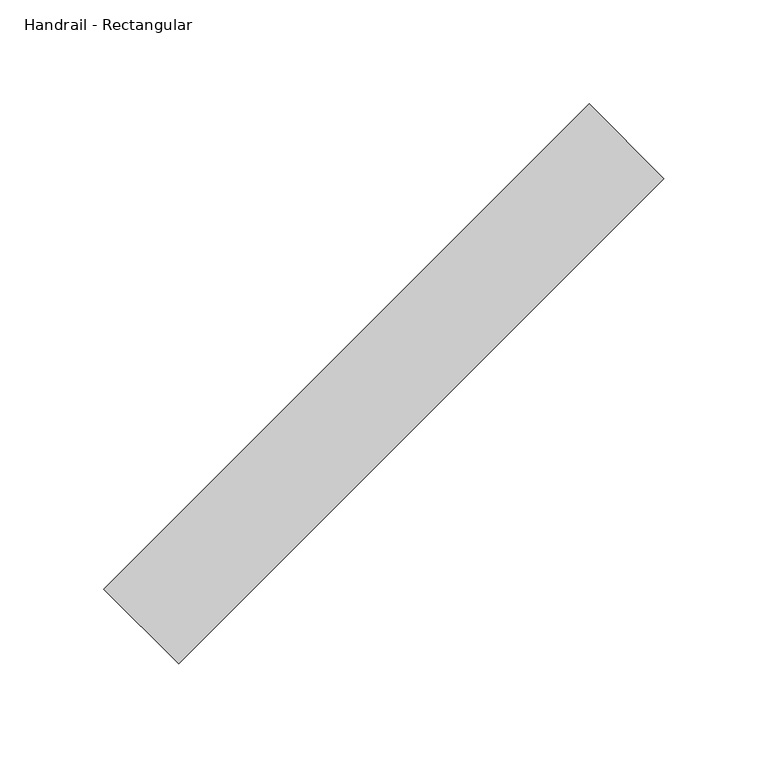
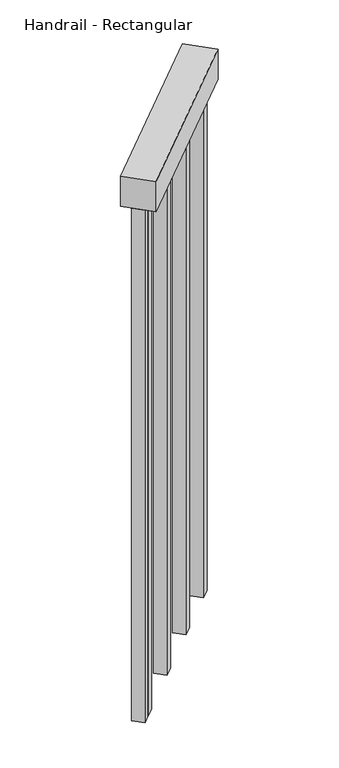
"""IFC4 building model written with IfcOpenShell, lengths in millimetres: railing geometry, Handrail - Rectangular."""

from ifc_helpers import new_model, si_unit, frame, origin, place, context, project, spatial, polyline, outline, extrude, source, transform, mapped, element, save


def handrail_rectangular_c3d4dcf0(model_context):
    return source(origin(), model_context, "Body", "SweptSolid", [
        extrude(outline(polyline([(-9273.257025, 1292.3761179), (-9237.3360005, 1256.4550934), (-9470.8226597, 1022.9684343), (-9506.7436842, 1058.8894588), (-9273.257025, 1292.3761179)])), frame((0.0, 0.0, 35458.4), z_axis=(0.0, 0.0, 1.0), x_axis=(1.0, 0.0, 0.0)), (0.0, 0.0, 1.0), 50.8),
        extrude(outline(polyline([(-9470.8226597, 1072.3598429), (-9457.3522755, 1058.8894588), (-9470.8226597, 1045.4190746), (-9484.2930439, 1058.8894588), (-9470.8226597, 1072.3598429)])), frame((0.0, 0.0, 34594.8), z_axis=(0.0, 0.0, 1.0), x_axis=(1.0, 0.0, 0.0)), (0.0, 0.0, 1.0), 863.6),
        extrude(outline(polyline([(-9398.9806107, 1144.2018919), (-9385.5102265, 1130.7315077), (-9398.9806107, 1117.2611236), (-9412.4509949, 1130.7315077), (-9398.9806107, 1144.2018919)])), frame((0.0, 0.0, 34594.8), z_axis=(0.0, 0.0, 1.0), x_axis=(1.0, 0.0, 0.0)), (0.0, 0.0, 1.0), 863.6),
        extrude(outline(polyline([(-9327.1385618, 1216.0439409), (-9313.6681776, 1202.5735567), (-9327.1385618, 1189.1031725), (-9340.6089459, 1202.5735567), (-9327.1385618, 1216.0439409)])), frame((0.0, 0.0, 34594.8), z_axis=(0.0, 0.0, 1.0), x_axis=(1.0, 0.0, 0.0)), (0.0, 0.0, 1.0), 863.6),
        extrude(outline(polyline([(-9482.0479798, 1061.1345228), (-9468.5775957, 1047.6641386), (-9482.0479798, 1034.1937544), (-9495.518364, 1047.6641386), (-9482.0479798, 1061.1345228)])), frame((0.0, 0.0, 34594.8), z_axis=(0.0, 0.0, 1.0), x_axis=(1.0, 0.0, 0.0)), (0.0, 0.0, 1.0), 863.6),
        extrude(outline(polyline([(-9262.0317049, 1281.1507978), (-9248.5613207, 1267.6804136), (-9262.0317049, 1254.2100294), (-9275.5020891, 1267.6804136), (-9262.0317049, 1281.1507978)])), frame((0.0, 0.0, 34594.8), z_axis=(0.0, 0.0, 1.0), x_axis=(1.0, 0.0, 0.0)), (0.0, 0.0, 1.0), 863.6),
    ])


if __name__ == "__main__":
    model = new_model("IFC4")
    model_context = context("Model", 3, world=origin())
    ifc_project = project(units=[si_unit("LENGTHUNIT", "METRE", prefix="MILLI")], contexts=[model_context])
    site = spatial("IfcSite", under=ifc_project)
    building = spatial("IfcBuilding", under=site)
    placement = place(None, origin())
    handrail_rectangular_shape = handrail_rectangular_c3d4dcf0(model_context)
    element("IfcRailing", 1, ObjectType="Handrail - Rectangular", at=placement, inside=building, context=model_context, shape_type="MappedRepresentation", body=[
        mapped(handrail_rectangular_shape, transform((0.0, 0.0, 0.0), x_axis=(1.0, 0.0, 0.0), y_axis=(0.0, 1.0, 0.0), z_axis=(0.0, 0.0, 1.0))),
    ])
    save(model, "model.ifc")
